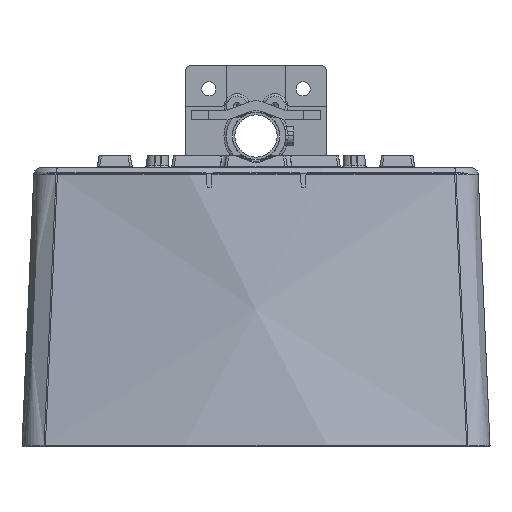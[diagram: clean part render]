
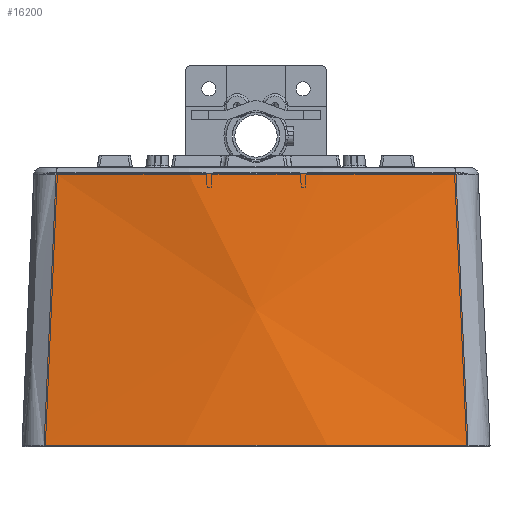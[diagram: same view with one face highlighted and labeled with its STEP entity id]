
A CAD part, front view. The second image highlights one B-rep face of the part: STEP entity #16200.
In plain terms, the highlighted conical face has half-angle 6 degrees and reference radius 700 mm.
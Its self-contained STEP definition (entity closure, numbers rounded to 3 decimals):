
#808 = AXIS2_PLACEMENT_3D ( 'NONE', #32658, #32684, #32679 ) ;
#837 = CONICAL_SURFACE ( 'NONE', #808, 700., 0.105 ) ;
#3564 = CARTESIAN_POINT ( 'NONE',  ( 19.521, -7.386, 216.846 ) ) ;
#3565 = CARTESIAN_POINT ( 'NONE',  ( 18.866, -8.824, 202.064 ) ) ;
#3572 = CARTESIAN_POINT ( 'NONE',  ( 20.176, -5.949, 231.627 ) ) ;
#3573 = CARTESIAN_POINT ( 'NONE',  ( 18.211, -10.261, 187.283 ) ) ;
#3574 = CARTESIAN_POINT ( 'NONE',  ( 15.46, -16.295, 125.224 ) ) ;
#3575 = CARTESIAN_POINT ( 'NONE',  ( 12.711, -22.327, 63.164 ) ) ;
#3576 = CARTESIAN_POINT ( 'NONE',  ( 9.962, -28.356, 1.105 ) ) ;
#3578 = CARTESIAN_POINT ( 'NONE',  ( 369.32, -26.782, 17.309 ) ) ;
#3579 = CARTESIAN_POINT ( 'NONE',  ( 368.602, -25.207, 33.513 ) ) ;
#3580 = CARTESIAN_POINT ( 'NONE',  ( 190., 673.721, 1.105 ) ) ;
#3581 = DIRECTION ( 'NONE',  ( 0., 0., 1. ) ) ;
#3582 = DIRECTION ( 'NONE',  ( 1., 0., 0. ) ) ;
#3583 = CARTESIAN_POINT ( 'NONE',  ( 370.038, -28.356, 1.105 ) ) ;
#3584 = CARTESIAN_POINT ( 'NONE',  ( 367.884, -23.633, 49.717 ) ) ;
#3585 = CARTESIAN_POINT ( 'NONE',  ( 365.199, -17.741, 110.354 ) ) ;
#3586 = CARTESIAN_POINT ( 'NONE',  ( 362.512, -11.846, 170.991 ) ) ;
#3587 = CARTESIAN_POINT ( 'NONE',  ( 359.824, -5.949, 231.627 ) ) ;
#3590 = CARTESIAN_POINT ( 'NONE',  ( 190., 673.721, 231.627 ) ) ;
#3591 = DIRECTION ( 'NONE',  ( 0., 0., -1. ) ) ;
#3592 = DIRECTION ( 'NONE',  ( 1., 0., 0. ) ) ;
#4799 = CARTESIAN_POINT ( 'NONE',  ( 370.038, -28.356, 1.105 ) ) ;
#5229 = CARTESIAN_POINT ( 'NONE',  ( 359.824, -5.949, 231.627 ) ) ;
#7378 = CARTESIAN_POINT ( 'NONE',  ( 9.962, -28.356, 1.105 ) ) ;
#8487 = EDGE_CURVE ( 'NONE', #36913, #21994, #24651, .T. ) ;
#8488 = EDGE_CURVE ( 'NONE', #21994, #21548, #18858, .T. ) ;
#8489 = EDGE_CURVE ( 'NONE', #21548, #21737, #24654, .T. ) ;
#8491 = EDGE_CURVE ( 'NONE', #21737, #36913, #18855, .T. ) ;
#16200 = ADVANCED_FACE ( 'NONE', ( #32681 ), #837, .T. ) ;
#18851 = AXIS2_PLACEMENT_3D ( 'NONE', #3590, #3591, #3592 ) ;
#18855 = CIRCLE ( 'NONE', #18851, 700.565 ) ;
#18858 = CIRCLE ( 'NONE', #18859, 724.794 ) ;
#18859 = AXIS2_PLACEMENT_3D ( 'NONE', #3580, #3581, #3582 ) ;
#21548 = VERTEX_POINT ( 'NONE', #4799 ) ;
#21737 = VERTEX_POINT ( 'NONE', #5229 ) ;
#21994 = VERTEX_POINT ( 'NONE', #7378 ) ;
#24387 = CARTESIAN_POINT ( 'NONE',  ( 20.176, -5.949, 231.627 ) ) ;
#24651 = B_SPLINE_CURVE_WITH_KNOTS ( 'NONE', 3,
 ( #3572, #3564, #3565, #3573, #3574, #3575, #3576 ),
 .UNSPECIFIED., .F., .F.,
 ( 4, 3, 4 ),
 ( 0.005, 0.05, 0.237 ),
 .UNSPECIFIED. ) ;
#24654 = B_SPLINE_CURVE_WITH_KNOTS ( 'NONE', 3,
 ( #3583, #3578, #3579, #3584, #3585, #3586, #3587 ),
 .UNSPECIFIED., .F., .F.,
 ( 4, 3, 4 ),
 ( 0.001, 0.05, 0.233 ),
 .UNSPECIFIED. ) ;
#32658 = CARTESIAN_POINT ( 'NONE',  ( 190., 673.721, 237. ) ) ;
#32679 = DIRECTION ( 'NONE',  ( -1., 0., 0. ) ) ;
#32681 = FACE_OUTER_BOUND ( 'NONE', #36212, .T. ) ;
#32684 = DIRECTION ( 'NONE',  ( 0., 0., -1. ) ) ;
#36212 = EDGE_LOOP ( 'NONE', ( #44733, #44741, #44737, #44715 ) ) ;
#36913 = VERTEX_POINT ( 'NONE', #24387 ) ;
#44715 = ORIENTED_EDGE ( 'NONE', *, *, #8491, .T. ) ;
#44733 = ORIENTED_EDGE ( 'NONE', *, *, #8487, .T. ) ;
#44737 = ORIENTED_EDGE ( 'NONE', *, *, #8489, .T. ) ;
#44741 = ORIENTED_EDGE ( 'NONE', *, *, #8488, .T. ) ;
